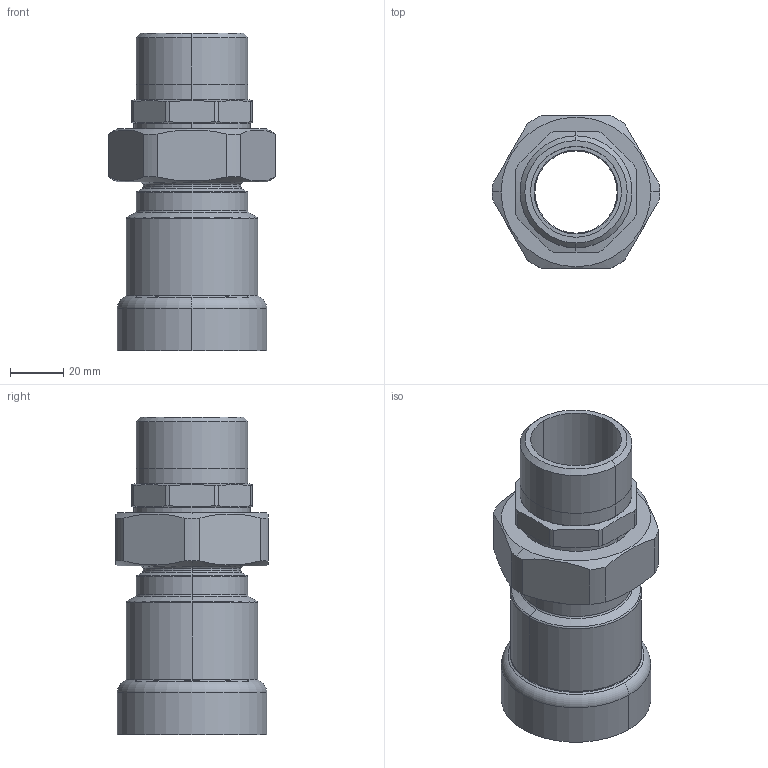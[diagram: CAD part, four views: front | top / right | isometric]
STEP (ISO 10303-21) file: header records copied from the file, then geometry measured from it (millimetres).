
FILE_DESCRIPTION(('Creo Elements/Direct Modeling STEP Export'),'2;1');
FILE_NAME('C9435_1-1-4.stp','2020-07-20T 9:44:12',(''),(''),'PTC Creo Elements/Direct Modeling STEP processor for AP214 (Solid Model)','PTC Creo Elements/Direct Modeling 19.0C 15-Aug-2015 (C) Parametric Technology GmbH','');
FILE_SCHEMA(('AUTOMOTIVE_DESIGN { 1 0 10303 214 1 1 1 1 }'));
Length unit declared in the file: millimetre
Products named in the file (2): C9435_1-1-4
Assembly tree (1 placements, depth 2):
  C9435_1-1-4
    C9435_1-1-4
Bounding box: 62.7 x 57 x 119 mm (x, y, z)
Volume: 98051.3 mm3; surface area: 38346.1 mm2
Topology: 1 solids, 1 shells, 90 faces, 215 edges, 131 vertices
Faces by surface type: cylinder 36, plane 20, cone 20, torus 14
Entity records: 4064 total; most frequent: CARTESIAN_POINT 2113, ORIENTED_EDGE 430, DIRECTION 350, EDGE_CURVE 215, AXIS2_PLACEMENT_3D 140, VERTEX_POINT 131, EDGE_LOOP 96, FACE_OUTER_BOUND 90
